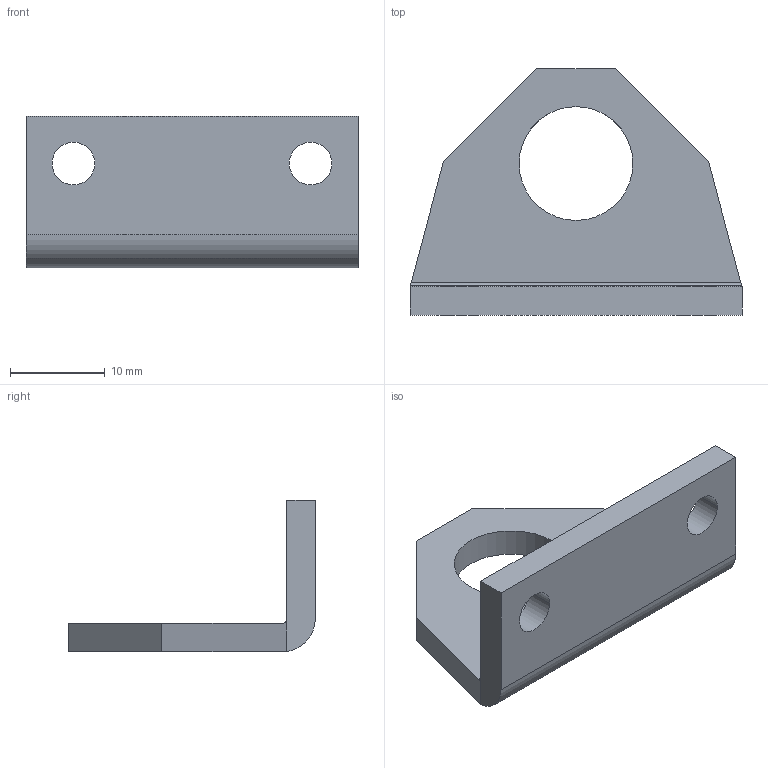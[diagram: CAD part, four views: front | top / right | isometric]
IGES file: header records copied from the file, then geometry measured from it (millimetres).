
Global section: file name: No Iges File Name specified; native system: AutoDesk Inventor R6.0; preprocessor: AutoDesk Inventor Iges Exporter R6.0; author: No Author specified; organization: No Organization specified; date: 20030408.081507; units: millimetre
Bounding box: 35 x 26 x 16 mm (x, y, z)
Volume: 2932.8 mm3; surface area: 2539 mm2
Topology: 1 solids, 1 shells, 22 faces, 58 edges, 38 vertices
Faces by surface type: plane 12, revolution 4, bspline 4, cylinder 2
